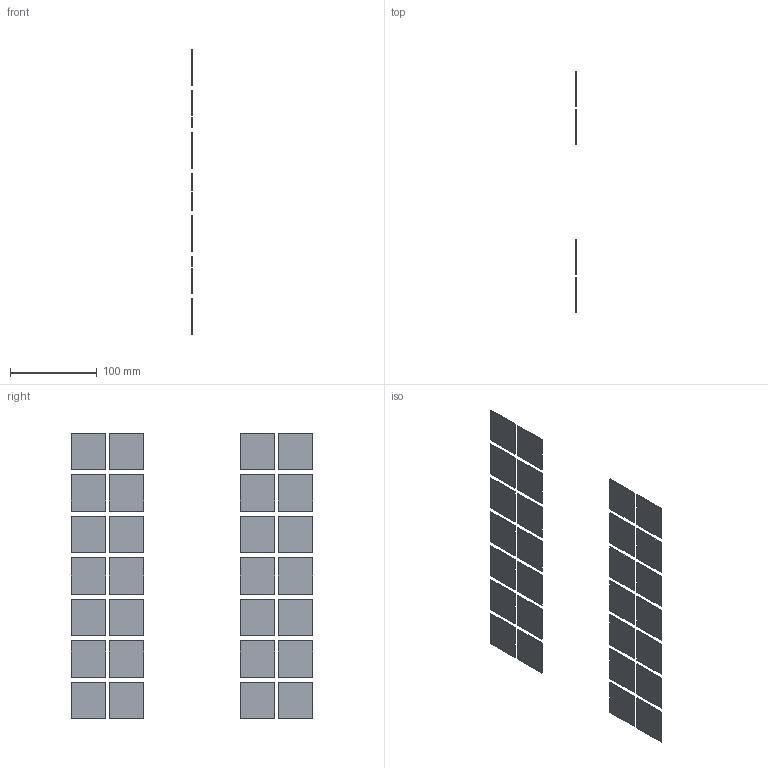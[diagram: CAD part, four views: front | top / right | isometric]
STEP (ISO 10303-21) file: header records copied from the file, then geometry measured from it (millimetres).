
FILE_DESCRIPTION(('Open CASCADE Model'),'2;1');
FILE_NAME('wing_cells','2026-08-12T02:42:46',('Author'),('Open CASCADE') ,'Open CASCADE STEP processor 7.9','build123d','Unknown');
FILE_SCHEMA(('AUTOMOTIVE_DESIGN { 1 0 10303 214 1 1 1 1 }'));
Length unit declared in the file: millimetre
Products named in the file (29): wing_cells; COMPOUND
Assembly tree (28 placements, depth 2):
  wing_cells
    COMPOUND
    COMPOUND
    COMPOUND
    COMPOUND
    COMPOUND
    COMPOUND
    COMPOUND
    COMPOUND
    COMPOUND
    COMPOUND
    COMPOUND
    COMPOUND
    COMPOUND
    COMPOUND
    COMPOUND
    COMPOUND
    COMPOUND
    COMPOUND
    COMPOUND
    COMPOUND
    COMPOUND
    COMPOUND
    COMPOUND
    COMPOUND
    COMPOUND
    COMPOUND
    COMPOUND
    COMPOUND
Bounding box: 0.8 x 279 x 330 mm (x, y, z)
Volume: 37632 mm3; surface area: 97753.6 mm2
Topology: 28 solids, 28 shells, 168 faces, 336 edges, 224 vertices
Faces by surface type: plane 168
Entity records: 9088 total; most frequent: CARTESIAN_POINT 1429, DIRECTION 1402, LINE 1008, VECTOR 1008, ORIENTED_EDGE 672, PCURVE 672, DEFINITIONAL_REPRESENTATION 672, EDGE_CURVE 336
